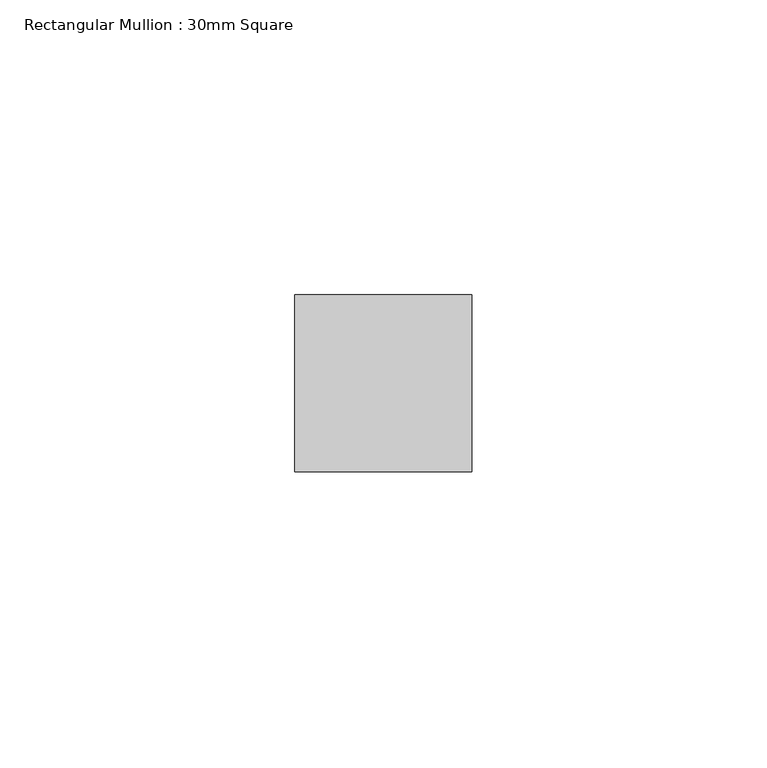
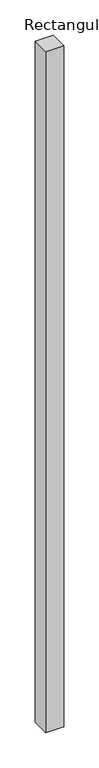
"""IFC4 building model written with IfcOpenShell, lengths in millimetres: member geometry, Rectangular Mullion : 30mm Square."""

from ifc_helpers import new_model, si_unit, frame, origin, place, context, project, spatial, polyline, outline, extrude, source, transform, mapped, element, save


def rectangular_mullion_30mm_square_4568de91(model_context):
    return source(origin(), model_context, "Body", "SweptSolid", [
        extrude(outline(polyline([(0.0, 15.0), (0.0, -15.0), (-30.0, -15.0), (-30.0, 15.0), (0.0, 15.0)])), frame((0.0, 0.0, -1185.0), z_axis=(0.0, 0.0, 1.0), x_axis=(1.0, 0.0, 0.0)), (0.0, 0.0, 1.0), 1185.0),
    ])


if __name__ == "__main__":
    model = new_model("IFC4")
    model_context = context("Model", 3, world=origin())
    ifc_project = project(units=[si_unit("LENGTHUNIT", "METRE", prefix="MILLI")], contexts=[model_context])
    site = spatial("IfcSite", under=ifc_project)
    building = spatial("IfcBuilding", under=site)
    placement = place(None, origin())
    rectangular_mullion_30mm_square_shape = rectangular_mullion_30mm_square_4568de91(model_context)
    element("IfcMember", 1, ObjectType="Rectangular Mullion : 30mm Square", at=placement, inside=building, context=model_context, shape_type="MappedRepresentation", body=[
        mapped(rectangular_mullion_30mm_square_shape, transform((0.0, 0.0, 0.0), x_axis=(1.0, 0.0, 0.0), y_axis=(0.0, 1.0, 0.0), z_axis=(0.0, 0.0, 1.0))),
    ])
    save(model, "model.ifc")
